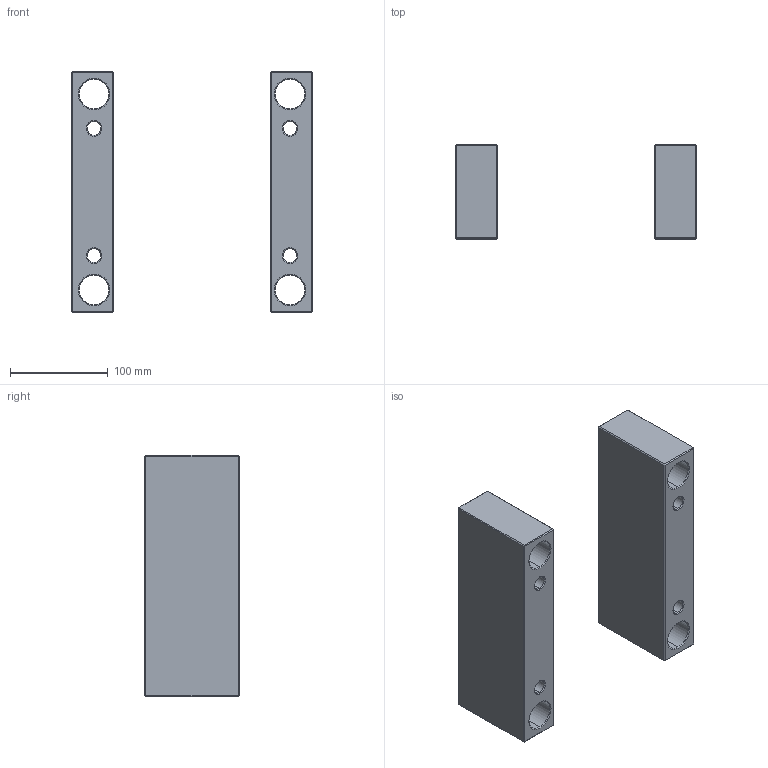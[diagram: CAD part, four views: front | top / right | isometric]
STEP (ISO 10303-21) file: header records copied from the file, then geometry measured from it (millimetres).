
FILE_DESCRIPTION (( 'STEP AP214' ), '1' );
FILE_NAME ('ESP-EU-246X246x96.STEP', '2020-04-15T17:10:14', ( 'August' ), ( '' ), 'SwSTEP 2.0', 'SolidWorks 2018', '' );
FILE_SCHEMA (( 'AUTOMOTIVE_DESIGN' ));
Length unit declared in the file: millimetre
Products named in the file (1): ESP-EU-246X246x96
Bounding box: 246 x 96 x 246 mm (x, y, z)
Volume: 1698331.2 mm3; surface area: 197044.8 mm2
Topology: 2 solids, 2 shells, 100 faces, 208 edges, 112 vertices
Faces by surface type: plane 52, cone 32, cylinder 16
Entity records: 2631 total; most frequent: DIRECTION 474, CARTESIAN_POINT 421, ORIENTED_EDGE 416, EDGE_CURVE 208, AXIS2_PLACEMENT_3D 165, VECTOR 144, LINE 144, EDGE_LOOP 116
